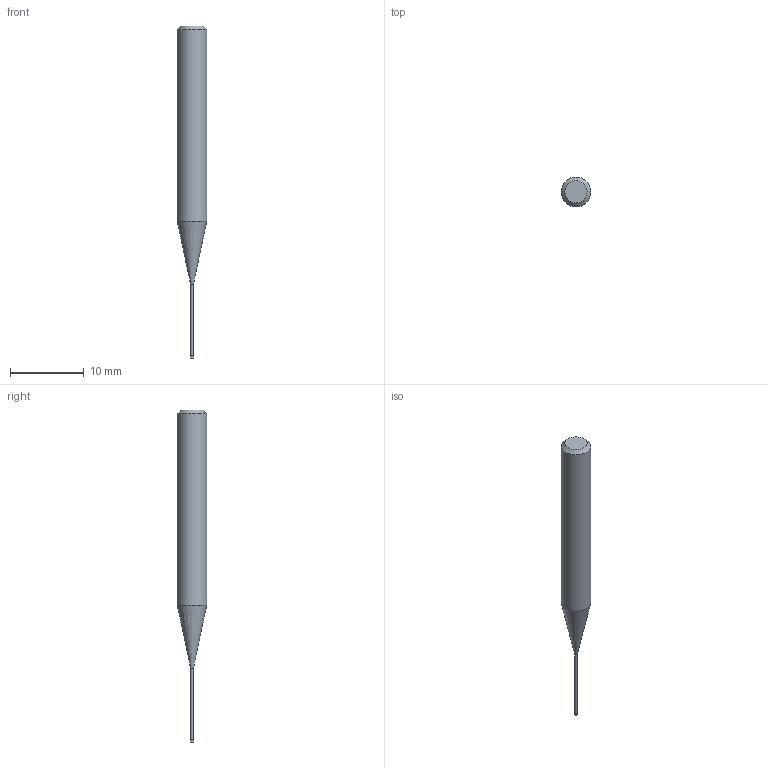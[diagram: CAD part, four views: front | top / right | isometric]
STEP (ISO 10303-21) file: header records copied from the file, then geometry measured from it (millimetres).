
FILE_DESCRIPTION((''),'2;1');
FILE_NAME('C:\Users\nsx150\AppData\Local\Temp\Mastercam 2021\RJ5U8K7RMU\TEMP.step','2021-04-21T16:39:57',(''),(''),'STEP Write','Mastercam 2021 ... CNC Software, Inc.','');
FILE_SCHEMA(('AUTOMOTIVE_DESIGN'));
Length unit declared in the file: millimetre
Products named in the file (1): None
Bounding box: 4 x 4 x 45 mm (x, y, z)
Volume: 371.5 mm3; surface area: 413 mm2
Topology: 2 solids, 2 shells, 9 faces, 12 edges, 7 vertices
Faces by surface type: plane 4, cylinder 3, cone 2
Full cylindrical faces by diameter (mm): 0.37 x1, 0.4 x1, 4 x1
Entity records: 211 total; most frequent: DIRECTION 36, CARTESIAN_POINT 25, AXIS2_PLACEMENT_3D 18, ORIENTED_EDGE 14, EDGE_LOOP 14, STYLED_ITEM 12, ADVANCED_FACE 9, FACE_BOUND 8
